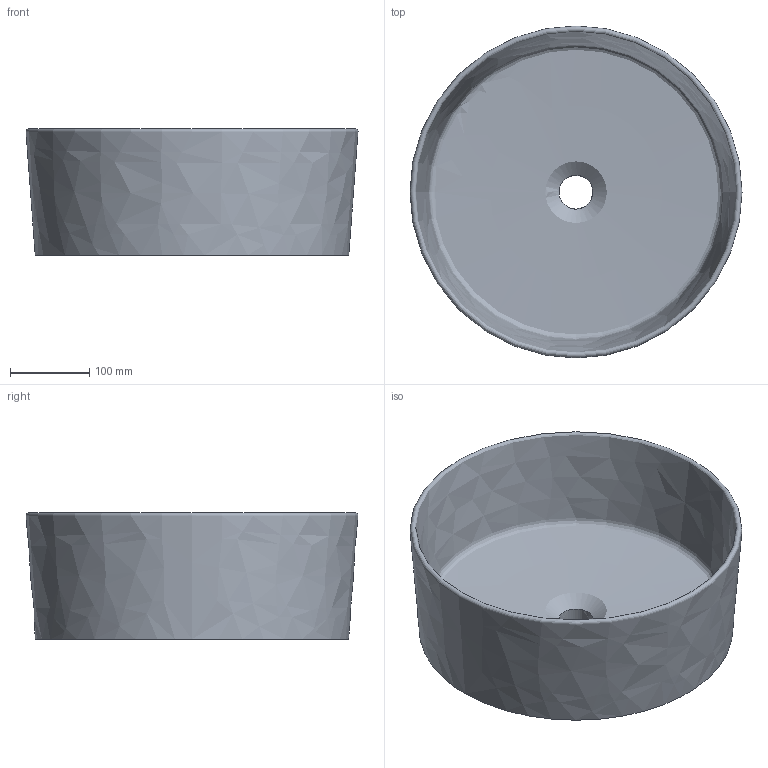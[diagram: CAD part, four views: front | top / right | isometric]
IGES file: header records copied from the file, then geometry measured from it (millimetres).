
Global section: file name: C:\Users\DE NITTO FULVIO\Desktop\Nic\2017\Maggio\Collezione Ovvio\Ovvio Lavabo Vaso 42\Modello 3D\Ovvio Lavabo Vaso 42.igs; native system: Rhinoceros ( Oct 24 2012 ); preprocessor: Trout Lake IGES 012 Oct 24 2012; date: 170505.164940; units: millimetre
Bounding box: 419.79 x 419.78 x 160 mm (x, y, z)
Surface area: 595619.6 mm2 (no closed solid volume)
Topology: 0 solids, 0 shells, 3 faces, 19 edges, 16 vertices
Faces by surface type: bspline 3
